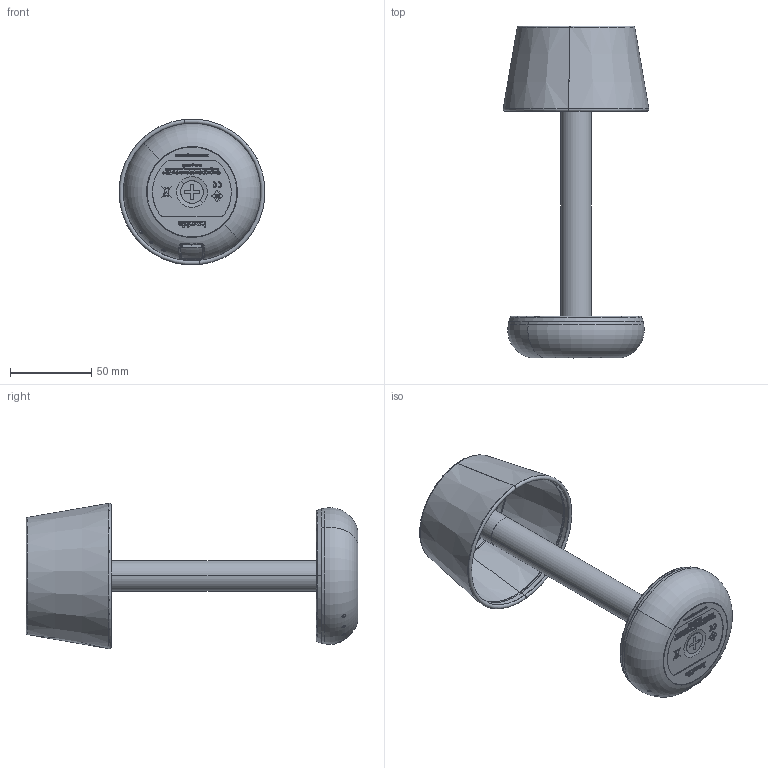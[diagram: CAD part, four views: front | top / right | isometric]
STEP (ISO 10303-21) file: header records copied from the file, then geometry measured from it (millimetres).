
FILE_DESCRIPTION (( 'STEP AP214' ), '1' );
FILE_NAME ('Humble-Two-Linen.STEP', '2023-06-21T12:29:05', ( '' ), ( '' ), 'SwSTEP 2.0', 'SolidWorks 2023', '' );
FILE_SCHEMA (( 'AUTOMOTIVE_DESIGN' ));
Length unit declared in the file: millimetre
Products named in the file (5): FabricShade; HumbleTwoBase; Humble-Two-Linen; bottomrubbernew; SMDG4
Assembly tree (4 placements, depth 2):
  Humble-Two-Linen
    HumbleTwoBase
    bottomrubbernew
    SMDG4
    FabricShade
Bounding box: 89.74 x 204.38 x 89.74 mm (x, y, z)
Volume: 74842.7 mm3; surface area: 136466.3 mm2
Topology: 31 solids, 31 shells, 2973 faces, 7799 edges, 5052 vertices
Faces by surface type: plane 1210, bspline 988, cylinder 453, torus 189, cone 110, sphere 23
Entity records: 145104 total; most frequent: CARTESIAN_POINT 54615, ORIENTED_EDGE 15544, EDGE_CURVE 7772, DIRECTION 7319, B_SPLINE_CURVE_WITH_KNOTS 5469, VERTEX_POINT 5048, EDGE_LOOP 3202, AXIS2_PLACEMENT_3D 3057
